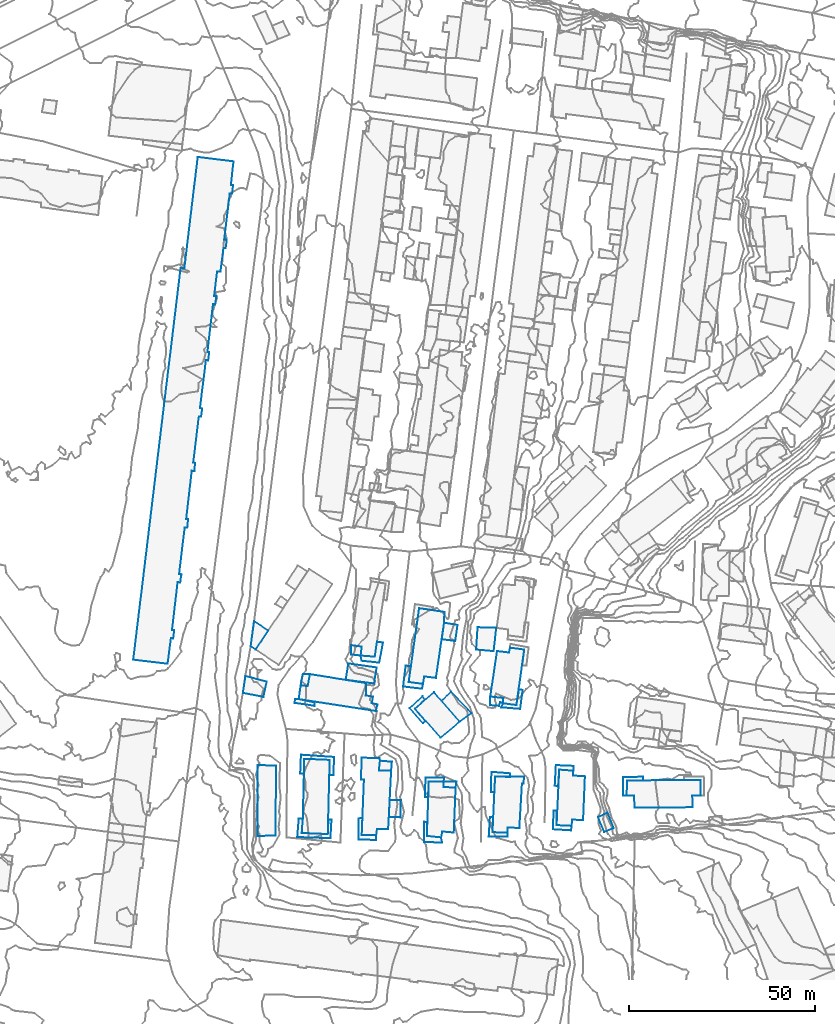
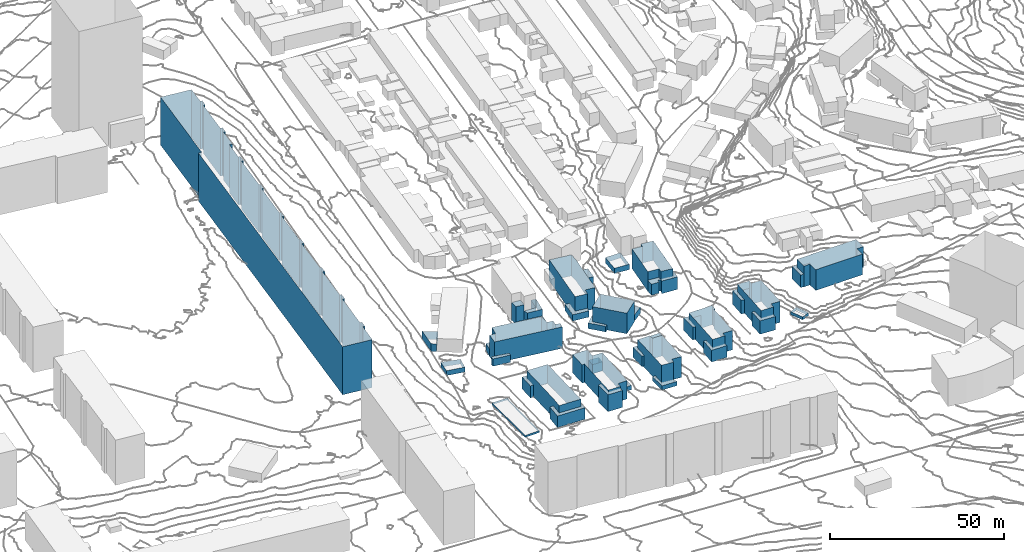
# Not in any storey, part 47 of 419: 40 walls.
"""IFC2X3 model written with IfcOpenShell, lengths in metres."""

from ifc_helpers import new_model, si_unit, frame, origin_with_axes, place, context, subcontext, project, faceted_brep, element, save


model = new_model("IFC2X3")

# Units and contexts
model_context = context("Model", 3, precision=1e-05, world=origin_with_axes())
body_context = subcontext(model_context, "Body", "Model", "MODEL_VIEW")
ifc_project = project(units=[si_unit("AREAUNIT", "SQUARE_METRE"), si_unit("LENGTHUNIT", "METRE")], contexts=[model_context])

# Walls
wall_1_placement = place(None, frame((487.0920204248, 667.5976909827, 35.5330013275), z_axis=(0.0, 0.0, 1.0), x_axis=(1.0, 0.0, 0.0)))
element("IfcWall", 1, at=wall_1_placement, Name="Mur 0", context=body_context, shape_type="Brep", body=[
    faceted_brep([(2.9, -0.4000000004, 6.1669986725), (2.6, -2.7999999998, 6.1669986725), (2.9, -0.4000000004, 0.0), (2.6, -2.7999999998, 0.0), (0.0, 0.0, 6.1669986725), (0.0, 0.0, 0.0), (0.1, -2.5, 6.1669986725), (0.1, -2.5, 0.0)], [[[0, 1, 2]], [[2, 1, 3]], [[4, 0, 5]], [[5, 0, 2]], [[1, 6, 3]], [[3, 6, 7]], [[6, 4, 7]], [[7, 4, 5]]]),
])
wall_2_placement = place(None, frame((511.9920204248, 629.4976909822, 37.3230004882), z_axis=(0.0, 0.0, 1.0), x_axis=(1.0, 0.0, 0.0)))
element("IfcWall", 2, at=wall_2_placement, Name="Mur 0", context=body_context, shape_type="Brep", body=[
    faceted_brep([(3.4, 1.5, 5.9769995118), (3.2, -0.0999999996, 5.9769995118), (3.4, 1.5, 0.0), (3.2, -0.0999999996, 0.0), (0.0, 1.5, 5.9769995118), (0.0, 1.5, 0.0), (0.0, 0.0, 5.9769995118), (0.0, 0.0, 0.0)], [[[0, 1, 2]], [[2, 1, 3]], [[4, 0, 5]], [[5, 0, 2]], [[1, 6, 3]], [[3, 6, 7]], [[6, 4, 7]], [[7, 4, 5]]]),
])
wall_3_placement = place(None, frame((561.0920204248, 627.1976909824, 45.709199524), z_axis=(0.0, 0.0, 1.0), x_axis=(1.0, 0.0, 0.0)))
element("IfcWall", 3, at=wall_3_placement, Name="Mur 0", context=body_context, shape_type="Brep", body=[
    faceted_brep([(2.0, 0.1000000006, 7.290800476), (0.0, 0.0, 7.290800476), (2.0, 0.1000000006, 0.0), (0.0, 0.0, 0.0), (2.1, -3.2000000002, 7.290800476), (2.1, -3.2000000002, 0.0), (17.7, -3.0999999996, 7.290800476), (17.7, -3.0999999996, 0.0), (17.6, 0.0, 7.290800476), (17.6, 0.0, 0.0), (19.8, 0.0, 7.290800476), (19.8, 0.0, 0.0), (19.8, 4.2000000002, 7.290800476), (19.8, 4.2000000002, 0.0), (0.1, 4.1000000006, 7.290800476), (0.1, 4.1000000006, 0.0)], [[[0, 1, 2]], [[2, 1, 3]], [[4, 0, 5]], [[5, 0, 2]], [[6, 4, 7]], [[7, 4, 5]], [[8, 6, 9]], [[9, 6, 7]], [[10, 8, 11]], [[11, 8, 9]], [[12, 10, 13]], [[13, 10, 11]], [[1, 14, 3]], [[3, 14, 15]], [[14, 12, 15]], [[15, 12, 13]]]),
])
wall_4_placement = place(None, frame((542.2920204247, 619.2976909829, 41.3799995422), z_axis=(0.0, 0.0, 1.0), x_axis=(1.0, 0.0, 0.0)))
element("IfcWall", 4, at=wall_4_placement, Name="Mur 0", context=body_context, shape_type="Brep", body=[
    faceted_brep([(4.2000000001, 1.5, 7.4200004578), (4.0, -0.2000000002, 7.4200004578), (4.2000000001, 1.5, 0.0), (4.0, -0.2000000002, 0.0), (7.1000000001, 1.2999999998, 7.4200004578), (7.1000000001, 1.2999999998, 0.0), (7.6000000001, 13.0999999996, 7.4200004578), (7.6000000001, 13.0999999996, 0.0), (4.4, 13.2999999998, 7.4200004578), (4.4, 13.2999999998, 0.0), (4.5, 14.5999999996, 7.4200004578), (4.5, 14.5999999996, 0.0), (0.7000000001, 14.8999999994, 7.4200004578), (0.7000000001, 14.8999999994, 0.0), (0.0, 0.0, 7.4200004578), (0.0, 0.0, 0.0)], [[[0, 1, 2]], [[2, 1, 3]], [[4, 0, 5]], [[5, 0, 2]], [[6, 4, 7]], [[7, 4, 5]], [[8, 6, 9]], [[9, 6, 7]], [[10, 8, 11]], [[11, 8, 9]], [[12, 10, 13]], [[13, 10, 11]], [[1, 14, 3]], [[3, 14, 15]], [[14, 12, 15]], [[15, 12, 13]]]),
])
wall_5_placement = place(None, frame((502.8920204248, 650.6976909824, 37.2302006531), z_axis=(0.0, 0.0, 1.0), x_axis=(1.0, 0.0, 0.0)))
element("IfcWall", 5, at=wall_5_placement, Name="Mur 0", context=body_context, shape_type="Brep", body=[
    faceted_brep([(3.3999999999, 3.2000000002, 1.9697993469), (4.0, 2.2999999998, 1.9697993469), (3.3999999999, 3.2000000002, 0.0), (4.0, 2.2999999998, 0.0), (0.0, 0.0, 1.9697993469), (0.0, 0.0, 0.0), (3.5, -4.0, 1.9697993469), (3.5, -4.0, 0.0), (4.2, -3.5, 1.9697993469), (4.2, -3.5, 0.0), (1.3999999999, -0.0999999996, 1.9697993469), (1.3999999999, -0.0999999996, 0.0)], [[[0, 1, 2]], [[2, 1, 3]], [[4, 0, 5]], [[5, 0, 2]], [[6, 4, 7]], [[7, 4, 5]], [[8, 6, 9]], [[9, 6, 7]], [[1, 10, 3]], [[3, 10, 11]], [[10, 8, 11]], [[11, 8, 9]]]),
])
wall_6_placement = place(None, frame((489.6920204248, 664.7976909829, 36.5316988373), z_axis=(0.0, 0.0, 1.0), x_axis=(1.0, 0.0, 0.0)))
element("IfcWall", 6, at=wall_6_placement, Name="Mur 0", context=body_context, shape_type="Brep", body=[
    faceted_brep([(0.3, -1.4000000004, 2.9683011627), (0.0, 0.0, 2.9683011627), (0.3, -1.4000000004, 0.0), (0.0, 0.0, 0.0), (5.0, -1.9000000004, 2.9683011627), (5.0, -1.9000000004, 0.0), (6.0, 3.5, 2.9683011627), (6.0, 3.5, 0.0), (4.4, 3.6999999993, 2.9683011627), (4.4, 3.6999999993, 0.0), (3.8, -0.3000000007, 2.9683011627), (3.8, -0.3000000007, 0.0)], [[[0, 1, 2]], [[2, 1, 3]], [[4, 0, 5]], [[5, 0, 2]], [[6, 4, 7]], [[7, 4, 5]], [[8, 6, 9]], [[9, 6, 7]], [[1, 10, 3]], [[3, 10, 11]], [[10, 8, 11]], [[11, 8, 9]]]),
])
wall_7_placement = place(None, frame((541.2920204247, 618.1976909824, 41.4967990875), z_axis=(0.0, 0.0, 1.0), x_axis=(1.0, 0.0, 0.0)))
element("IfcWall", 7, at=wall_7_placement, Name="Mur 0", context=body_context, shape_type="Brep", body=[
    faceted_brep([(1.0, 1.1000000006, 4.7032009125), (5.0, 0.9000000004, 4.7032009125), (1.0, 1.1000000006, 0.0), (5.0, 0.9000000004, 0.0), (1.0, 5.0, 4.7032009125), (1.0, 5.0, 0.0), (0.2000000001, 5.0, 4.7032009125), (0.2000000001, 5.0, 0.0), (0.0, 0.0, 4.7032009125), (0.0, 0.0, 0.0), (4.9, -0.2999999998, 4.7032009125), (4.9, -0.2999999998, 0.0)], [[[0, 1, 2]], [[2, 1, 3]], [[4, 0, 5]], [[5, 0, 2]], [[6, 4, 7]], [[7, 4, 5]], [[8, 6, 9]], [[9, 6, 7]], [[1, 10, 3]], [[3, 10, 11]], [[10, 8, 11]], [[11, 8, 9]]]),
])
wall_8_placement = place(None, frame((458.0920204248, 654.7976909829, 33.89060112), z_axis=(0.0, 0.0, 1.0), x_axis=(1.0, 0.0, 0.0)))
element("IfcWall", 8, at=wall_8_placement, Name="Mur 0", context=body_context, shape_type="Brep", body=[
    faceted_brep([(5.5, -1.1000000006, 1.70939888), (0.0, 0.0, 1.70939888), (5.5, -1.1000000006, 0.0), (0.0, 0.0, 0.0), (6.4, 3.0, 1.70939888), (6.4, 3.0, 0.0), (0.7, 4.5, 1.70939888), (0.7, 4.5, 0.0)], [[[0, 1, 2]], [[2, 1, 3]], [[4, 0, 5]], [[5, 0, 2]], [[1, 6, 3]], [[3, 6, 7]], [[6, 4, 7]], [[7, 4, 5]]]),
])
wall_9_placement = place(None, frame((524.0920204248, 616.2976909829, 38.8784992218), z_axis=(0.0, 0.0, 1.0), x_axis=(1.0, 0.0, 0.0)))
element("IfcWall", 9, at=wall_9_placement, Name="Mur 0", context=body_context, shape_type="Brep", body=[
    faceted_brep([(1.0, 1.0999999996, 4.1215007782), (5.0, 1.0, 4.1215007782), (1.0, 1.0999999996, 0.0), (5.0, 1.0, 0.0), (1.2, 5.0999999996, 4.1215007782), (1.2, 5.0999999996, 0.0), (0.3, 5.1999999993, 4.1215007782), (0.3, 5.1999999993, 0.0), (0.0, 0.0, 4.1215007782), (0.0, 0.0, 0.0), (5.0, -0.1000000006, 4.1215007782), (5.0, -0.1000000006, 0.0)], [[[0, 1, 2]], [[2, 1, 3]], [[4, 0, 5]], [[5, 0, 2]], [[6, 4, 7]], [[7, 4, 5]], [[8, 6, 9]], [[9, 6, 7]], [[1, 10, 3]], [[3, 10, 11]], [[10, 8, 11]], [[11, 8, 9]]]),
])
wall_10_placement = place(None, frame((541.7920204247, 629.8976909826, 41.3649997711), z_axis=(0.0, 0.0, 1.0), x_axis=(1.0, 0.0, 0.0)))
element("IfcWall", 10, at=wall_10_placement, Name="Mur 0", context=body_context, shape_type="Brep", body=[
    faceted_brep([(5.1000000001, 5.2999999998, 4.8350002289), (5.0, 4.0, 4.8350002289), (5.1000000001, 5.2999999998, 0.0), (5.0, 4.0, 0.0), (0.3, 5.5, 4.8350002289), (0.3, 5.5, 0.0), (0.0, 0.0, 4.8350002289), (0.0, 0.0, 0.0), (0.9, -0.2000000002, 4.8350002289), (0.9, -0.2000000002, 0.0), (1.2000000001, 4.2999999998, 4.8350002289), (1.2000000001, 4.2999999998, 0.0)], [[[0, 1, 2]], [[2, 1, 3]], [[4, 0, 5]], [[5, 0, 2]], [[6, 4, 7]], [[7, 4, 5]], [[8, 6, 9]], [[9, 6, 7]], [[1, 10, 3]], [[3, 10, 11]], [[10, 8, 11]], [[11, 8, 9]]]),
])
wall_11_placement = place(None, frame((489.0920204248, 615.4976909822, 34.1513998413), z_axis=(0.0, 0.0, 1.0), x_axis=(1.0, 0.0, 0.0)))
element("IfcWall", 11, at=wall_11_placement, Name="Mur 0", context=body_context, shape_type="Brep", body=[
    faceted_brep([(0.1, 5.6000000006, 5.9486001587), (1.1, 5.8000000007, 5.9486001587), (0.1, 5.6000000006, 0.0), (1.1, 5.8000000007, 0.0), (0.0, 0.0, 5.9486001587), (0.0, 0.0, 0.0), (4.7, -0.1999999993, 5.9486001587), (4.7, -0.1999999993, 0.0), (4.8, 1.1000000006, 5.9486001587), (4.8, 1.1000000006, 0.0), (0.9, 1.2000000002, 5.9486001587), (0.9, 1.2000000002, 0.0)], [[[0, 1, 2]], [[2, 1, 3]], [[4, 0, 5]], [[5, 0, 2]], [[6, 4, 7]], [[7, 4, 5]], [[8, 6, 9]], [[9, 6, 7]], [[1, 10, 3]], [[3, 10, 11]], [[10, 8, 11]], [[11, 8, 9]]]),
])
wall_12_placement = place(None, frame((485.6920204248, 658.2976909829, 34.2639987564), z_axis=(0.0, 0.0, 1.0), x_axis=(1.0, 0.0, 0.0)))
element("IfcWall", 12, at=wall_12_placement, Name="Mur 0", context=body_context, shape_type="Brep", body=[
    faceted_brep([(7.6, -1.0, 3.9360012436), (0.0, 0.0, 3.9360012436), (7.6, -1.0, 0.0), (0.0, 0.0, 0.0), (8.3, 3.2999999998, 3.9360012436), (8.3, 3.2999999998, 0.0), (0.7000000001, 4.3999999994, 3.9360012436), (0.7000000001, 4.3999999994, 0.0)], [[[0, 1, 2]], [[2, 1, 3]], [[4, 0, 5]], [[5, 0, 2]], [[1, 6, 3]], [[3, 6, 7]], [[6, 4, 7]], [[7, 4, 5]]]),
])
wall_13_placement = place(None, frame((520.6920204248, 666.3976909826, 40.8299991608), z_axis=(0.0, 0.0, 1.0), x_axis=(1.0, 0.0, 0.0)))
element("IfcWall", 13, at=wall_13_placement, Name="Mur 0", context=body_context, shape_type="Brep", body=[
    faceted_brep([(0.4, 6.0, 1.8700008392), (5.4, 5.9000000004, 1.8700008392), (0.4, 6.0, 0.0), (5.4, 5.9000000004, 0.0), (0.0, 0.0, 1.8700008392), (0.0, 0.0, 0.0), (4.7000000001, -0.4000000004, 1.8700008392), (4.7000000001, -0.4000000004, 0.0)], [[[0, 1, 2]], [[2, 1, 3]], [[4, 0, 5]], [[5, 0, 2]], [[1, 6, 3]], [[3, 6, 7]], [[6, 4, 7]], [[7, 4, 5]]]),
])
wall_14_placement = place(None, frame((524.3920204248, 651.4976909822, 40.9319988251), z_axis=(0.0, 0.0, 1.0), x_axis=(1.0, 0.0, 0.0)))
element("IfcWall", 14, at=wall_14_placement, Name="Mur 0", context=body_context, shape_type="Brep", body=[
    faceted_brep([(3.6, 1.9000000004, 3.8680011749), (3.5, 0.5, 3.8680011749), (3.6, 1.9000000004, 0.0), (3.5, 0.5, 0.0), (0.1, 2.3000000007, 3.8680011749), (0.1, 2.3000000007, 0.0), (0.0, 0.0, 3.8680011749), (0.0, 0.0, 0.0), (2.3999999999, -0.1999999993, 3.8680011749), (2.3999999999, -0.1999999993, 0.0), (2.7, 0.8000000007, 3.8680011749), (2.7, 0.8000000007, 0.0)], [[[0, 1, 2]], [[2, 1, 3]], [[4, 0, 5]], [[5, 0, 2]], [[6, 4, 7]], [[7, 4, 5]], [[8, 6, 9]], [[9, 6, 7]], [[1, 10, 3]], [[3, 10, 11]], [[10, 8, 11]], [[11, 8, 9]]]),
])
wall_15_placement = place(None, frame((511.4920204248, 669.1976909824, 37.2300003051), z_axis=(0.0, 0.0, 1.0), x_axis=(1.0, 0.0, 0.0)))
element("IfcWall", 15, at=wall_15_placement, Name="Mur 0", context=body_context, shape_type="Brep", body=[
    faceted_brep([(0.0, 0.0, 3.0699996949), (0.6, 4.4000000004, 3.0699996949), (0.0, 0.0, 0.0), (0.6, 4.4000000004, 0.0), (3.6, -0.5, 3.0699996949), (3.6, -0.5, 0.0), (4.2, 3.7999999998, 3.0699996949), (4.2, 3.7999999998, 0.0)], [[[0, 1, 2]], [[2, 1, 3]], [[4, 0, 5]], [[5, 0, 2]], [[1, 6, 3]], [[3, 6, 7]], [[6, 4, 7]], [[7, 4, 5]]]),
])
wall_16_placement = place(None, frame((507.4920204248, 616.3976909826, 36.2219997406), z_axis=(0.0, 0.0, 1.0), x_axis=(1.0, 0.0, 0.0)))
element("IfcWall", 16, at=wall_16_placement, Name="Mur 0", context=body_context, shape_type="Brep", body=[
    faceted_brep([(4.5, 13.0999999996, 7.2780002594), (7.7, 13.0, 7.2780002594), (4.5, 13.0999999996, 0.0), (7.7, 13.0, 0.0), (4.5, 14.5999999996, 7.2780002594), (4.5, 14.5999999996, 0.0), (0.5, 14.5999999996, 7.2780002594), (0.5, 14.5999999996, 0.0), (0.0, 0.0, 7.2780002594), (0.0, 0.0, 0.0), (3.7999999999, -0.4000000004, 7.2780002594), (3.7999999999, -0.4000000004, 0.0), (4.1, 1.2000000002, 7.2780002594), (4.1, 1.2000000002, 0.0), (7.2, 0.9000000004, 7.2780002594), (7.2, 0.9000000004, 0.0)], [[[0, 1, 2]], [[2, 1, 3]], [[4, 0, 5]], [[5, 0, 2]], [[6, 4, 7]], [[7, 4, 5]], [[8, 6, 9]], [[9, 6, 7]], [[10, 8, 11]], [[11, 8, 9]], [[12, 10, 13]], [[13, 10, 11]], [[1, 14, 3]], [[3, 14, 15]], [[14, 12, 15]], [[15, 12, 13]]]),
])
wall_17_placement = place(None, frame((524.4920204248, 653.7976909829, 40.8986994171), z_axis=(0.0, 0.0, 1.0), x_axis=(1.0, 0.0, 0.0)))
element("IfcWall", 17, at=wall_17_placement, Name="Mur 0", context=body_context, shape_type="Brep", body=[
    faceted_brep([(3.5, -0.4000000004, 6.9013005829), (0.0, 0.0, 6.9013005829), (3.5, -0.4000000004, 0.0), (0.0, 0.0, 0.0), (3.4, -1.8000000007, 6.9013005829), (3.4, -1.8000000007, 0.0), (7.0, -2.3000000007, 6.9013005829), (7.0, -2.3000000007, 0.0), (9.1, 12.5999999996, 6.9013005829), (9.1, 12.5999999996, 0.0), (5.2999999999, 13.0999999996, 6.9013005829), (5.2999999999, 13.0999999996, 0.0), (5.0, 11.7999999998, 6.9013005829), (5.0, 11.7999999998, 0.0), (1.7999999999, 12.1999999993, 6.9013005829), (1.7999999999, 12.1999999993, 0.0)], [[[0, 1, 2]], [[2, 1, 3]], [[4, 0, 5]], [[5, 0, 2]], [[6, 4, 7]], [[7, 4, 5]], [[8, 6, 9]], [[9, 6, 7]], [[10, 8, 11]], [[11, 8, 9]], [[12, 10, 13]], [[13, 10, 11]], [[1, 14, 3]], [[3, 14, 15]], [[14, 12, 15]], [[15, 12, 13]]]),
])
wall_18_placement = place(None, frame((501.0920204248, 656.4976909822, 36.9775999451), z_axis=(0.0, 0.0, 1.0), x_axis=(1.0, 0.0, 0.0)))
element("IfcWall", 18, at=wall_18_placement, Name="Mur 0", context=body_context, shape_type="Brep", body=[
    faceted_brep([(1.5, 1.2000000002, 2.2224000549), (5.3, 0.7000000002, 2.2224000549), (1.5, 1.2000000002, 0.0), (5.3, 0.7000000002, 0.0), (2.1, 5.4000000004, 2.2224000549), (2.1, 5.4000000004, 0.0), (0.7, 5.6000000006, 2.2224000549), (0.7, 5.6000000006, 0.0), (0.0, 0.0, 2.2224000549), (0.0, 0.0, 0.0), (5.1, -0.5999999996, 2.2224000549), (5.1, -0.5999999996, 0.0)], [[[0, 1, 2]], [[2, 1, 3]], [[4, 0, 5]], [[5, 0, 2]], [[6, 4, 7]], [[7, 4, 5]], [[8, 6, 9]], [[9, 6, 7]], [[1, 10, 3]], [[3, 10, 11]], [[10, 8, 11]], [[11, 8, 9]]]),
])
wall_19_placement = place(None, frame((473.4920204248, 633.0976909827, 33.7929993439), z_axis=(0.0, 0.0, 1.0), x_axis=(1.0, 0.0, 0.0)))
element("IfcWall", 19, at=wall_19_placement, Name="Mur 0", context=body_context, shape_type="Brep", body=[
    faceted_brep([(1.1, 4.0, 4.2070006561), (1.0, 0.0, 4.2070006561), (1.1, 4.0, 0.0), (1.0, 0.0, 0.0), (7.9, 3.7000000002, 4.2070006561), (7.9, 3.7000000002, 0.0), (7.7999999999, -0.4000000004, 4.2070006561), (7.7999999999, -0.4000000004, 0.0), (8.9, -0.4000000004, 4.2070006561), (8.9, -0.4000000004, 0.0), (9.1, 4.5, 4.2070006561), (9.1, 4.5, 0.0), (0.2, 5.0999999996, 4.2070006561), (0.2, 5.0999999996, 0.0), (0.0, 0.0, 4.2070006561), (0.0, 0.0, 0.0)], [[[0, 1, 2]], [[2, 1, 3]], [[4, 0, 5]], [[5, 0, 2]], [[6, 4, 7]], [[7, 4, 5]], [[8, 6, 9]], [[9, 6, 7]], [[10, 8, 11]], [[11, 8, 9]], [[12, 10, 13]], [[13, 10, 11]], [[1, 14, 3]], [[3, 14, 15]], [[14, 12, 15]], [[15, 12, 13]]]),
])
wall_20_placement = place(None, frame((472.6920204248, 616.0976909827, 33.9259983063), z_axis=(0.0, 0.0, 1.0), x_axis=(1.0, 0.0, 0.0)))
element("IfcWall", 20, at=wall_20_placement, Name="Mur 0", context=body_context, shape_type="Brep", body=[
    faceted_brep([(0.4, 5.0, 4.0740016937), (1.5, 5.0, 4.0740016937), (0.4, 5.0, 0.0), (1.5, 5.0, 0.0), (0.0, 0.0, 4.0740016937), (0.0, 0.0, 0.0), (8.9, -0.2999999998, 4.0740016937), (8.9, -0.2999999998, 0.0), (9.2000000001, 4.7000000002, 4.0740016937), (9.2000000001, 4.7000000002, 0.0), (8.4, 4.7000000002, 4.0740016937), (8.4, 4.7000000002, 0.0), (8.2000000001, 0.7999999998, 4.0740016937), (8.2000000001, 0.7999999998, 0.0), (1.2000000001, 1.0999999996, 4.0740016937), (1.2000000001, 1.0999999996, 0.0)], [[[0, 1, 2]], [[2, 1, 3]], [[4, 0, 5]], [[5, 0, 2]], [[6, 4, 7]], [[7, 4, 5]], [[8, 6, 9]], [[9, 6, 7]], [[10, 8, 11]], [[11, 8, 9]], [[12, 10, 13]], [[13, 10, 11]], [[1, 14, 3]], [[3, 14, 15]], [[14, 12, 15]], [[15, 12, 13]]]),
])
wall_21_placement = place(None, frame((460.1920204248, 667.2976909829, 34.0620014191), z_axis=(0.0, 0.0, 1.0), x_axis=(1.0, 0.0, 0.0)))
element("IfcWall", 21, at=wall_21_placement, Name="Mur 0", context=body_context, shape_type="Brep", body=[
    faceted_brep([(0.0, 0.0, 2.7379985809), (0.9, 6.6999999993, 2.7379985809), (0.0, 0.0, 0.0), (0.9, 6.6999999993, 0.0), (1.3, -0.9000000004, 2.7379985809), (1.3, -0.9000000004, 0.0), (4.7000000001, 4.1999999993, 2.7379985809), (4.7000000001, 4.1999999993, 0.0)], [[[0, 1, 2]], [[2, 1, 3]], [[4, 0, 5]], [[5, 0, 2]], [[1, 6, 3]], [[3, 6, 7]], [[6, 4, 7]], [[7, 4, 5]]]),
])
wall_22_placement = place(None, frame((511.3920204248, 652.6976909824, 37.4983989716), z_axis=(0.0, 0.0, 1.0), x_axis=(1.0, 0.0, 0.0)))
element("IfcWall", 22, at=wall_22_placement, Name="Mur 0", context=body_context, shape_type="Brep", body=[
    faceted_brep([(4.8999999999, -5.5999999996, 2.2016010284), (0.0, 0.0, 2.2016010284), (4.8999999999, -5.5999999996, 0.0), (0.0, 0.0, 0.0), (8.1, -3.2999999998, 2.2016010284), (8.1, -3.2999999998, 0.0), (2.6, 2.4000000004, 2.2016010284), (2.6, 2.4000000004, 0.0)], [[[0, 1, 2]], [[2, 1, 3]], [[4, 0, 5]], [[5, 0, 2]], [[1, 6, 3]], [[3, 6, 7]], [[6, 4, 7]], [[7, 4, 5]]]),
])
wall_23_placement = place(None, frame((497.2920204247, 621.4976909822, 34.3826002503), z_axis=(0.0, 0.0, 1.0), x_axis=(1.0, 0.0, 0.0)))
element("IfcWall", 23, at=wall_23_placement, Name="Mur 0", context=body_context, shape_type="Brep", body=[
    faceted_brep([(0.0, 0.0, 1.5173997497), (0.2000000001, 4.5, 1.5173997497), (0.0, 0.0, 0.0), (0.2000000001, 4.5, 0.0), (3.1000000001, -0.0999999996, 1.5173997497), (3.1000000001, -0.0999999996, 0.0), (3.2000000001, 4.5, 1.5173997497), (3.2000000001, 4.5, 0.0)], [[[0, 1, 2]], [[2, 1, 3]], [[4, 0, 5]], [[5, 0, 2]], [[1, 6, 3]], [[3, 6, 7]], [[6, 4, 7]], [[7, 4, 5]]]),
])
wall_24_placement = place(None, frame((524.6920204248, 628.1976909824, 39.2345994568), z_axis=(0.0, 0.0, 1.0), x_axis=(1.0, 0.0, 0.0)))
element("IfcWall", 24, at=wall_24_placement, Name="Mur 0", context=body_context, shape_type="Brep", body=[
    faceted_brep([(5.1, 5.0, 4.4654005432), (5.1, 4.0, 4.4654005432), (5.1, 5.0, 0.0), (5.1, 4.0, 0.0), (0.1, 5.4000000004, 4.4654005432), (0.1, 5.4000000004, 0.0), (0.0, 0.0, 4.4654005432), (0.0, 0.0, 0.0), (0.9, -0.0999999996, 4.4654005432), (0.9, -0.0999999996, 0.0), (1.1, 4.2000000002, 4.4654005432), (1.1, 4.2000000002, 0.0)], [[[0, 1, 2]], [[2, 1, 3]], [[4, 0, 5]], [[5, 0, 2]], [[6, 4, 7]], [[7, 4, 5]], [[8, 6, 9]], [[9, 6, 7]], [[1, 10, 3]], [[3, 10, 11]], [[10, 8, 11]], [[11, 8, 9]]]),
])
wall_25_placement = place(None, frame((506.9920204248, 626.8976909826, 36.8540000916), z_axis=(0.0, 0.0, 1.0), x_axis=(1.0, 0.0, 0.0)))
element("IfcWall", 25, at=wall_25_placement, Name="Mur 0", context=body_context, shape_type="Brep", body=[
    faceted_brep([(5.1, 5.2000000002, 3.6459999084), (5.0, 4.0999999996, 3.6459999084), (5.1, 5.2000000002, 0.0), (5.0, 4.0999999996, 0.0), (0.1, 5.2000000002, 3.6459999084), (0.1, 5.2000000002, 0.0), (0.0, 0.0, 3.6459999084), (0.0, 0.0, 0.0), (0.7999999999, 0.0, 3.6459999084), (0.7999999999, 0.0, 0.0), (1.0, 4.0999999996, 3.6459999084), (1.0, 4.0999999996, 0.0)], [[[0, 1, 2]], [[2, 1, 3]], [[4, 0, 5]], [[5, 0, 2]], [[6, 4, 7]], [[7, 4, 5]], [[8, 6, 9]], [[9, 6, 7]], [[1, 10, 3]], [[3, 10, 11]], [[10, 8, 11]], [[11, 8, 9]]]),
])
wall_26_placement = place(None, frame((494.5920204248, 633.9976909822, 34.3430002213), z_axis=(0.0, 0.0, 1.0), x_axis=(1.0, 0.0, 0.0)))
element("IfcWall", 26, at=wall_26_placement, Name="Mur 0", context=body_context, shape_type="Brep", body=[
    faceted_brep([(0.0, 0.0, 3.1569997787), (0.3, 2.6000000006, 3.1569997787), (0.0, 0.0, 0.0), (0.3, 2.6000000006, 0.0), (3.3, -0.0999999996, 3.1569997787), (3.3, -0.0999999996, 0.0), (3.5, 2.3000000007, 3.1569997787), (3.5, 2.3000000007, 0.0)], [[[0, 1, 2]], [[2, 1, 3]], [[4, 0, 5]], [[5, 0, 2]], [[1, 6, 3]], [[3, 6, 7]], [[6, 4, 7]], [[7, 4, 5]]]),
])
wall_27_placement = place(None, frame((473.5920204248, 656.7976909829, 33.9599990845), z_axis=(0.0, 0.0, 1.0), x_axis=(1.0, 0.0, 0.0)))
element("IfcWall", 27, at=wall_27_placement, Name="Mur 0", context=body_context, shape_type="Brep", body=[
    faceted_brep([(1.9, -0.2000000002, 2.5400009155), (0.0, 0.0, 2.5400009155), (1.9, -0.2000000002, 0.0), (0.0, 0.0, 0.0), (2.5, 3.0, 2.5400009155), (2.5, 3.0, 0.0), (0.6, 3.0, 2.5400009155), (0.6, 3.0, 0.0)], [[[0, 1, 2]], [[2, 1, 3]], [[4, 0, 5]], [[5, 0, 2]], [[1, 6, 3]], [[3, 6, 7]], [[6, 4, 7]], [[7, 4, 5]]]),
])
wall_28_placement = place(None, frame((527.3920204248, 650.8976909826, 40.7847005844), z_axis=(0.0, 0.0, 1.0), x_axis=(1.0, 0.0, 0.0)))
element("IfcWall", 28, at=wall_28_placement, Name="Mur 0", context=body_context, shape_type="Brep", body=[
    faceted_brep([(0.0, 0.0, 4.4152994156), (0.5, 1.0999999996, 4.4152994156), (0.0, 0.0, 0.0), (0.5, 1.0999999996, 0.0), (5.1, -0.4000000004, 4.4152994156), (5.1, -0.4000000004, 0.0), (5.7999999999, 4.7000000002, 4.4152994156), (5.7999999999, 4.7000000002, 0.0), (4.7999999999, 4.7999999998, 4.4152994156), (4.7999999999, 4.7999999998, 0.0), (4.1, 0.5999999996, 4.4152994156), (4.1, 0.5999999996, 0.0)], [[[0, 1, 2]], [[2, 1, 3]], [[4, 0, 5]], [[5, 0, 2]], [[6, 4, 7]], [[7, 4, 5]], [[8, 6, 9]], [[9, 6, 7]], [[1, 10, 3]], [[3, 10, 11]], [[10, 8, 11]], [[11, 8, 9]]]),
])
wall_29_placement = place(None, frame((471.9920204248, 652.0976909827, 33.9270000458), z_axis=(0.0, 0.0, 1.0), x_axis=(1.0, 0.0, 0.0)))
element("IfcWall", 29, at=wall_29_placement, Name="Mur 0", context=body_context, shape_type="Brep", body=[
    faceted_brep([(0.1, 1.0999999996, 2.5729999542), (1.1, 1.0, 2.5729999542), (0.1, 1.0999999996, 0.0), (1.1, 1.0, 0.0), (0.0, 0.0, 2.5729999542), (0.0, 0.0, 0.0), (5.4, -0.7999999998, 2.5729999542), (5.4, -0.7999999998, 0.0), (5.4, 0.0999999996, 2.5729999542), (5.4, 0.0999999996, 0.0)], [[[0, 1, 2]], [[2, 1, 3]], [[4, 0, 5]], [[5, 0, 2]], [[6, 4, 7]], [[7, 4, 5]], [[1, 8, 3]], [[3, 8, 9]], [[8, 6, 9]], [[9, 6, 7]]]),
])
wall_30_placement = place(None, frame((462.0920204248, 616.3976909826, 34.0100002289), z_axis=(0.0, 0.0, 1.0), x_axis=(1.0, 0.0, 0.0)))
element("IfcWall", 30, at=wall_30_placement, Name="Mur 0", context=body_context, shape_type="Brep", body=[
    faceted_brep([(0.0, 0.0, 0.6899997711), (0.0, 19.0, 0.6899997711), (0.0, 0.0, 0.0), (0.0, 19.0, 0.0), (4.8, 0.0999999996, 0.6899997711), (4.8, 0.0999999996, 0.0), (4.9, 18.9000000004, 0.6899997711), (4.9, 18.9000000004, 0.0)], [[[0, 1, 2]], [[2, 1, 3]], [[4, 0, 5]], [[5, 0, 2]], [[1, 6, 3]], [[3, 6, 7]], [[6, 4, 7]], [[7, 4, 5]]]),
])
wall_31_placement = place(None, frame((553.3920204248, 621.4976909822, 42.1348006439), z_axis=(0.0, 0.0, 1.0), x_axis=(1.0, 0.0, 0.0)))
element("IfcWall", 31, at=wall_31_placement, Name="Mur 0", context=body_context, shape_type="Brep", body=[
    faceted_brep([(1.7, -4.0, 1.0651993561), (0.0, 0.0, 1.0651993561), (1.7, -4.0, 0.0), (0.0, 0.0, 0.0), (4.2, -3.0, 1.0651993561), (4.2, -3.0, 0.0), (2.6, 1.2000000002, 1.0651993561), (2.6, 1.2000000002, 0.0)], [[[0, 1, 2]], [[2, 1, 3]], [[4, 0, 5]], [[5, 0, 2]], [[1, 6, 3]], [[3, 6, 7]], [[6, 4, 7]], [[7, 4, 5]]]),
])
wall_32_placement = place(None, frame((506.6920204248, 614.7976909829, 36.0124001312), z_axis=(0.0, 0.0, 1.0), x_axis=(1.0, 0.0, 0.0)))
element("IfcWall", 32, at=wall_32_placement, Name="Mur 0", context=body_context, shape_type="Brep", body=[
    faceted_brep([(0.8, 1.5999999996, 1.4875998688), (4.6, 1.1999999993, 1.4875998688), (0.8, 1.5999999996, 0.0), (4.6, 1.1999999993, 0.0), (0.9, 5.2999999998, 1.4875998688), (0.9, 5.2999999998, 0.0), (0.0, 5.3999999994, 1.4875998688), (0.0, 5.3999999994, 0.0), (0.0, 0.0, 1.4875998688), (0.0, 0.0, 0.0), (4.9, -0.2000000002, 1.4875998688), (4.9, -0.2000000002, 0.0)], [[[0, 1, 2]], [[2, 1, 3]], [[4, 0, 5]], [[5, 0, 2]], [[6, 4, 7]], [[7, 4, 5]], [[8, 6, 9]], [[9, 6, 7]], [[1, 10, 3]], [[3, 10, 11]], [[10, 8, 11]], [[11, 8, 9]]]),
])
wall_33_placement = place(None, frame((473.8920204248, 617.1976909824, 33.9349990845), z_axis=(0.0, 0.0, 1.0), x_axis=(1.0, 0.0, 0.0)))
element("IfcWall", 33, at=wall_33_placement, Name="Mur 0", context=body_context, shape_type="Brep", body=[
    faceted_brep([(0.0, 0.0, 6.6650009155), (0.2999999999, 3.9000000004, 6.6650009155), (0.0, 0.0, 0.0), (0.2999999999, 3.9000000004, 0.0), (7.0, -0.2999999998, 6.6650009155), (7.0, -0.2999999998, 0.0), (7.5, 19.6000000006, 6.6650009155), (7.5, 19.6000000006, 0.0), (0.7, 19.9000000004, 6.6650009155), (0.7, 19.9000000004, 0.0)], [[[0, 1, 2]], [[2, 1, 3]], [[4, 0, 5]], [[5, 0, 2]], [[6, 4, 7]], [[7, 4, 5]], [[1, 8, 3]], [[3, 8, 9]], [[8, 6, 9]], [[9, 6, 7]]]),
])
wall_34_placement = place(None, frame((428.6920204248, 663.6976909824, 32.0109999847), z_axis=(0.0, 0.0, 1.0), x_axis=(1.0, 0.0, 0.0)))
element("IfcWall", 34, at=wall_34_placement, Name="Mur 0", context=body_context, shape_type="Brep", body=[
    faceted_brep([(17.3, 134.9000000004, 16.8890000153), (26.9, 133.7000000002, 16.8890000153), (17.3, 134.9000000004, 0.0), (26.9, 133.7000000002, 0.0), (13.7000000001, 105.0, 16.8890000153), (13.7000000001, 105.0, 0.0), (12.7000000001, 105.1000000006, 16.8890000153), (12.7000000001, 105.1000000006, 0.0), (0.0, 0.0, 16.8890000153), (0.0, 0.0, 0.0), (9.2000000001, -1.0999999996, 16.8890000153), (9.2000000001, -1.0999999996, 0.0), (10.1, 5.7999999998, 16.8890000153), (10.1, 5.7999999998, 0.0), (10.7000000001, 5.7000000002, 16.8890000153), (10.7000000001, 5.7000000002, 0.0), (11.0, 8.0, 16.8890000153), (11.0, 8.0, 0.0), (10.4, 8.0, 16.8890000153), (10.4, 8.0, 0.0), (11.9, 20.7999999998, 16.8890000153), (11.9, 20.7999999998, 0.0), (12.6, 20.7000000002, 16.8890000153), (12.6, 20.7000000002, 0.0), (12.9, 22.9000000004, 16.8890000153), (12.9, 22.9000000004, 0.0), (12.3, 23.0, 16.8890000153), (12.3, 23.0, 0.0), (13.8, 35.5, 16.8890000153), (13.8, 35.5, 0.0), (14.5, 35.4000000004, 16.8890000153), (14.5, 35.4000000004, 0.0), (14.7000000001, 37.7000000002, 16.8890000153), (14.7000000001, 37.7000000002, 0.0), (14.2000000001, 37.7000000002, 16.8890000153), (14.2000000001, 37.7000000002, 0.0), (15.7000000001, 50.7000000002, 16.8890000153), (15.7000000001, 50.7000000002, 0.0), (16.4, 50.6000000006, 16.8890000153), (16.4, 50.6000000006, 0.0), (16.6, 52.7999999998, 16.8890000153), (16.6, 52.7999999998, 0.0), (16.1, 52.9000000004, 16.8890000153), (16.1, 52.9000000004, 0.0), (17.6, 65.2999999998, 16.8890000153), (17.6, 65.2999999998, 0.0), (18.2000000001, 65.2000000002, 16.8890000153), (18.2000000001, 65.2000000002, 0.0), (18.5, 67.4000000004, 16.8890000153), (18.5, 67.4000000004, 0.0), (17.9, 67.5, 16.8890000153), (17.9, 67.5, 0.0), (19.5, 80.4000000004, 16.8890000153), (19.5, 80.4000000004, 0.0), (20.1, 80.2999999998, 16.8890000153), (20.1, 80.2999999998, 0.0), (20.4, 82.6000000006, 16.8890000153), (20.4, 82.6000000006, 0.0), (19.9, 82.6000000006, 16.8890000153), (19.9, 82.6000000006, 0.0), (21.4, 95.4000000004, 16.8890000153), (21.4, 95.4000000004, 0.0), (22.0, 95.2999999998, 16.8890000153), (22.0, 95.2999999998, 0.0), (22.3, 97.6000000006, 16.8890000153), (22.3, 97.6000000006, 0.0), (21.7000000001, 97.6000000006, 16.8890000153), (21.7000000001, 97.6000000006, 0.0), (22.5, 104.2000000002, 16.8890000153), (22.5, 104.2000000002, 0.0), (23.4, 104.1000000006, 16.8890000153), (23.4, 104.1000000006, 0.0), (24.2000000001, 110.5, 16.8890000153), (24.2000000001, 110.5, 0.0), (24.8, 110.5, 16.8890000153), (24.8, 110.5, 0.0), (25.1, 112.7000000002, 16.8890000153), (25.1, 112.7000000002, 0.0), (24.4, 112.7999999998, 16.8890000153), (24.4, 112.7999999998, 0.0), (25.9, 125.1000000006, 16.8890000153), (25.9, 125.1000000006, 0.0), (26.5, 125.1000000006, 16.8890000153), (26.5, 125.1000000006, 0.0), (26.8, 127.2999999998, 16.8890000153), (26.8, 127.2999999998, 0.0), (26.2000000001, 127.4000000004, 16.8890000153), (26.2000000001, 127.4000000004, 0.0)], [[[0, 1, 2]], [[2, 1, 3]], [[4, 0, 5]], [[5, 0, 2]], [[6, 4, 7]], [[7, 4, 5]], [[8, 6, 9]], [[9, 6, 7]], [[10, 8, 11]], [[11, 8, 9]], [[12, 10, 13]], [[13, 10, 11]], [[14, 12, 15]], [[15, 12, 13]], [[16, 14, 17]], [[17, 14, 15]], [[18, 16, 19]], [[19, 16, 17]], [[20, 18, 21]], [[21, 18, 19]], [[22, 20, 23]], [[23, 20, 21]], [[24, 22, 25]], [[25, 22, 23]], [[26, 24, 27]], [[27, 24, 25]], [[28, 26, 29]], [[29, 26, 27]], [[30, 28, 31]], [[31, 28, 29]], [[32, 30, 33]], [[33, 30, 31]], [[34, 32, 35]], [[35, 32, 33]], [[36, 34, 37]], [[37, 34, 35]], [[38, 36, 39]], [[39, 36, 37]], [[40, 38, 41]], [[41, 38, 39]], [[42, 40, 43]], [[43, 40, 41]], [[44, 42, 45]], [[45, 42, 43]], [[46, 44, 47]], [[47, 44, 45]], [[48, 46, 49]], [[49, 46, 47]], [[50, 48, 51]], [[51, 48, 49]], [[52, 50, 53]], [[53, 50, 51]], [[54, 52, 55]], [[55, 52, 53]], [[56, 54, 57]], [[57, 54, 55]], [[58, 56, 59]], [[59, 56, 57]], [[60, 58, 61]], [[61, 58, 59]], [[62, 60, 63]], [[63, 60, 61]], [[64, 62, 65]], [[65, 62, 63]], [[66, 64, 67]], [[67, 64, 65]], [[68, 66, 69]], [[69, 66, 67]], [[70, 68, 71]], [[71, 68, 69]], [[72, 70, 73]], [[73, 70, 71]], [[74, 72, 75]], [[75, 72, 73]], [[76, 74, 77]], [[77, 74, 75]], [[78, 76, 79]], [[79, 76, 77]], [[80, 78, 81]], [[81, 78, 79]], [[82, 80, 83]], [[83, 80, 81]], [[84, 82, 85]], [[85, 82, 83]], [[1, 86, 3]], [[3, 86, 87]], [[86, 84, 87]], [[87, 84, 85]]]),
])
wall_35_placement = place(None, frame((489.7920204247, 631.4976909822, 34.2568003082), z_axis=(0.0, 0.0, 1.0), x_axis=(1.0, 0.0, 0.0)))
element("IfcWall", 35, at=wall_35_placement, Name="Mur 0", context=body_context, shape_type="Brep", body=[
    faceted_brep([(5.0, 5.8000000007, 6.4431996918), (5.1000000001, 5.1000000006, 6.4431996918), (5.0, 5.8000000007, 0.0), (5.1000000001, 5.1000000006, 0.0), (0.2000000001, 5.9000000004, 6.4431996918), (0.2000000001, 5.9000000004, 0.0), (0.0, 0.0, 6.4431996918), (0.0, 0.0, 0.0), (0.8, 0.0, 6.4431996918), (0.8, 0.0, 0.0), (0.2000000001, -14.7999999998, 6.4431996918), (0.2000000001, -14.7999999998, 0.0), (4.1000000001, -14.8999999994, 6.4431996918), (4.1000000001, -14.8999999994, 0.0), (4.3, -13.2999999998, 6.4431996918), (4.3, -13.2999999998, 0.0), (7.3, -13.2999999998, 6.4431996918), (7.3, -13.2999999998, 0.0), (8.1000000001, 2.4000000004, 6.4431996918), (8.1000000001, 2.4000000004, 0.0), (4.8, 2.5, 6.4431996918), (4.8, 2.5, 0.0)], [[[0, 1, 2]], [[2, 1, 3]], [[4, 0, 5]], [[5, 0, 2]], [[6, 4, 7]], [[7, 4, 5]], [[8, 6, 9]], [[9, 6, 7]], [[10, 8, 11]], [[11, 8, 9]], [[12, 10, 13]], [[13, 10, 11]], [[14, 12, 15]], [[15, 12, 13]], [[16, 14, 17]], [[17, 14, 15]], [[18, 16, 19]], [[19, 16, 17]], [[1, 20, 3]], [[3, 20, 21]], [[20, 18, 21]], [[21, 18, 19]]]),
])
wall_36_placement = place(None, frame((560.0920204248, 627.2976909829, 45.7919990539), z_axis=(0.0, 0.0, 1.0), x_axis=(1.0, 0.0, 0.0)))
element("IfcWall", 36, at=wall_36_placement, Name="Mur 0", context=body_context, shape_type="Brep", body=[
    faceted_brep([(1.1, 4.0, 4.4080009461), (1.0, -0.1000000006, 4.4080009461), (1.1, 4.0, 0.0), (1.0, -0.1000000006, 0.0), (5.4, 4.0, 4.4080009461), (5.4, 4.0, 0.0), (5.4, 5.0, 4.4080009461), (5.4, 5.0, 0.0), (0.0, 4.8999999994, 4.4080009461), (0.0, 4.8999999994, 0.0), (0.0, 0.0, 4.4080009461), (0.0, 0.0, 0.0)], [[[0, 1, 2]], [[2, 1, 3]], [[4, 0, 5]], [[5, 0, 2]], [[6, 4, 7]], [[7, 4, 5]], [[8, 6, 9]], [[9, 6, 7]], [[1, 10, 3]], [[3, 10, 11]], [[10, 8, 11]], [[11, 8, 9]]]),
])
wall_37_placement = place(None, frame((504.2920204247, 650.5976909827, 37.2658000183), z_axis=(0.0, 0.0, 1.0), x_axis=(1.0, 0.0, 0.0)))
element("IfcWall", 37, at=wall_37_placement, Name="Mur 0", context=body_context, shape_type="Brep", body=[
    faceted_brep([(5.1000000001, 4.3999999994, 7.2341999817), (7.1000000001, 2.0999999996, 7.2341999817), (5.1000000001, 4.3999999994, 0.0), (7.1000000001, 2.0999999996, 0.0), (0.0, 0.0, 7.2341999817), (0.0, 0.0, 0.0), (6.9, -7.7999999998, 7.2341999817), (6.9, -7.7999999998, 0.0), (12.0, -3.5, 7.2341999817), (12.0, -3.5, 0.0)], [[[0, 1, 2]], [[2, 1, 3]], [[4, 0, 5]], [[5, 0, 2]], [[6, 4, 7]], [[7, 4, 5]], [[1, 8, 3]], [[3, 8, 9]], [[8, 6, 9]], [[9, 6, 7]]]),
])
wall_38_placement = place(None, frame((525.0920204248, 617.3976909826, 39.0), z_axis=(0.0, 0.0, 1.0), x_axis=(1.0, 0.0, 0.0)))
element("IfcWall", 38, at=wall_38_placement, Name="Mur 0", context=body_context, shape_type="Brep", body=[
    faceted_brep([(7.9, 13.0, 6.8), (7.2, 1.0999999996, 6.8), (7.9, 13.0, 0.0), (7.2, 1.0999999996, 0.0), (8.3, 13.0999999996, 6.8), (8.3, 13.0999999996, 0.0), (8.5, 14.9000000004, 6.8), (8.5, 14.9000000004, 0.0), (0.7, 15.0, 6.8), (0.7, 15.0, 0.0), (0.0, 0.0, 6.8), (0.0, 0.0, 0.0), (4.0, -0.0999999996, 6.8), (4.0, -0.0999999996, 0.0), (4.1, 1.2999999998, 6.8), (4.1, 1.2999999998, 0.0)], [[[0, 1, 2]], [[2, 1, 3]], [[4, 0, 5]], [[5, 0, 2]], [[6, 4, 7]], [[7, 4, 5]], [[8, 6, 9]], [[9, 6, 7]], [[10, 8, 11]], [[11, 8, 9]], [[12, 10, 13]], [[13, 10, 11]], [[1, 14, 3]], [[3, 14, 15]], [[14, 12, 15]], [[15, 12, 13]]]),
])
wall_39_placement = place(None, frame((473.0920204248, 653.0976909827, 33.9599990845), z_axis=(0.0, 0.0, 1.0), x_axis=(1.0, 0.0, 0.0)))
element("IfcWall", 39, at=wall_39_placement, Name="Mur 0", context=body_context, shape_type="Brep", body=[
    faceted_brep([(2.4, 3.5, 7.5400009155), (3.0, 6.7000000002, 7.5400009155), (2.4, 3.5, 0.0), (3.0, 6.7000000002, 0.0), (0.5, 3.7000000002, 7.5400009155), (0.5, 3.7000000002, 0.0), (0.0, 0.0, 7.5400009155), (0.0, 0.0, 0.0), (20.7, -3.2000000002, 7.5400009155), (20.7, -3.2000000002, 0.0), (21.1, -1.4000000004, 7.5400009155), (21.1, -1.4000000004, 0.0), (19.6, -1.1000000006, 7.5400009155), (19.6, -1.1000000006, 0.0), (19.9, 0.7000000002, 7.5400009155), (19.9, 0.7000000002, 0.0), (18.0, 1.0, 7.5400009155), (18.0, 1.0, 0.0), (18.1, 4.2999999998, 7.5400009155), (18.1, 4.2999999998, 0.0)], [[[0, 1, 2]], [[2, 1, 3]], [[4, 0, 5]], [[5, 0, 2]], [[6, 4, 7]], [[7, 4, 5]], [[8, 6, 9]], [[9, 6, 7]], [[10, 8, 11]], [[11, 8, 9]], [[12, 10, 13]], [[13, 10, 11]], [[14, 12, 15]], [[15, 12, 13]], [[16, 14, 17]], [[17, 14, 15]], [[1, 18, 3]], [[3, 18, 19]], [[18, 16, 19]], [[19, 16, 17]]]),
])
wall_40_placement = place(None, frame((502.5920204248, 657.6976909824, 36.8600009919), z_axis=(0.0, 0.0, 1.0), x_axis=(1.0, 0.0, 0.0)))
element("IfcWall", 40, at=wall_40_placement, Name="Mur 0", context=body_context, shape_type="Brep", body=[
    faceted_brep([(9.6, 18.7999999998, 7.4399990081), (9.5, 15.9000000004, 7.4399990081), (9.6, 18.7999999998, 0.0), (9.5, 15.9000000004, 0.0), (2.8, 19.7999999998, 7.4399990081), (2.8, 19.7999999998, 0.0), (0.0, 0.0, 7.4399990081), (0.0, 0.0, 0.0), (3.8, -0.5, 7.4399990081), (3.8, -0.5, 0.0), (4.2, 1.5, 7.4399990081), (4.2, 1.5, 0.0), (7.3, 1.1000000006, 7.4399990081), (7.3, 1.1000000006, 0.0)], [[[0, 1, 2]], [[2, 1, 3]], [[4, 0, 5]], [[5, 0, 2]], [[6, 4, 7]], [[7, 4, 5]], [[8, 6, 9]], [[9, 6, 7]], [[10, 8, 11]], [[11, 8, 9]], [[1, 12, 3]], [[3, 12, 13]], [[12, 10, 13]], [[13, 10, 11]]]),
])

save(model, "model.ifc")
